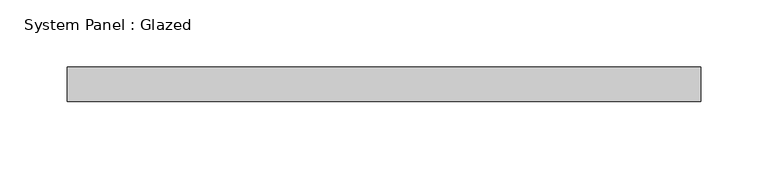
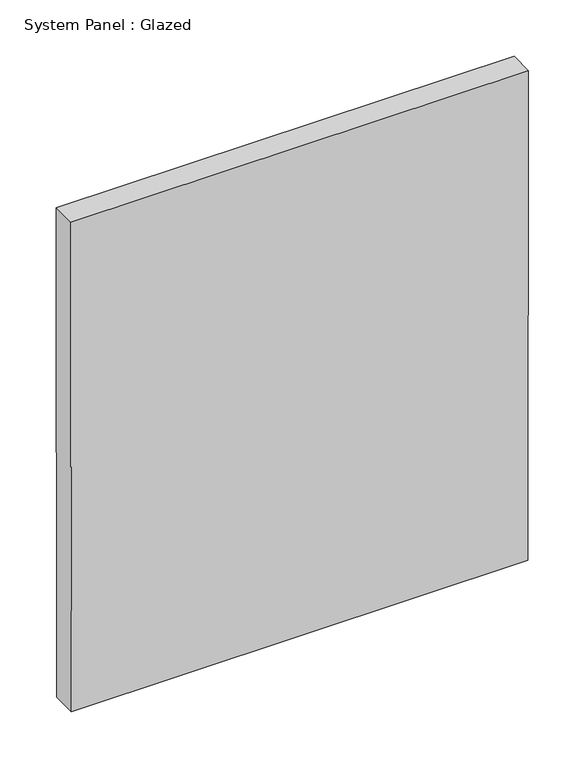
"""IFC4 building model written with IfcOpenShell, lengths in millimetres: plate geometry, System Panel : Glazed."""

from ifc_helpers import new_model, si_unit, frame, origin, place, context, project, spatial, polyline, outline, extrude, source, transform, mapped, element, save


def system_panel_glazed_d1d661fa(model_context):
    return source(origin(), model_context, "Body", "SweptSolid", [
        extrude(outline(polyline([(0.0, -234.0733312), (0.0, 234.0733312), (530.688359, 234.6341473), (530.688359, -234.6341473), (0.0, -234.0733312)])), frame((0.0, -44.45, 0.0), z_axis=(0.0, 1.0, 0.0), x_axis=(0.0, 0.0, 1.0)), (0.0, 0.0, 1.0), 25.4),
    ])


if __name__ == "__main__":
    model = new_model("IFC4")
    model_context = context("Model", 3, world=origin())
    ifc_project = project(units=[si_unit("LENGTHUNIT", "METRE", prefix="MILLI")], contexts=[model_context])
    site = spatial("IfcSite", under=ifc_project)
    building = spatial("IfcBuilding", under=site)
    placement = place(None, origin())
    system_panel_glazed_shape = system_panel_glazed_d1d661fa(model_context)
    element("IfcPlate", 1, ObjectType="System Panel : Glazed", at=placement, inside=building, context=model_context, shape_type="MappedRepresentation", body=[
        mapped(system_panel_glazed_shape, transform((0.0, 0.0, 0.0), x_axis=(1.0, 0.0, 0.0), y_axis=(0.0, 1.0, 0.0), z_axis=(0.0, 0.0, 1.0))),
    ])
    save(model, "model.ifc")
